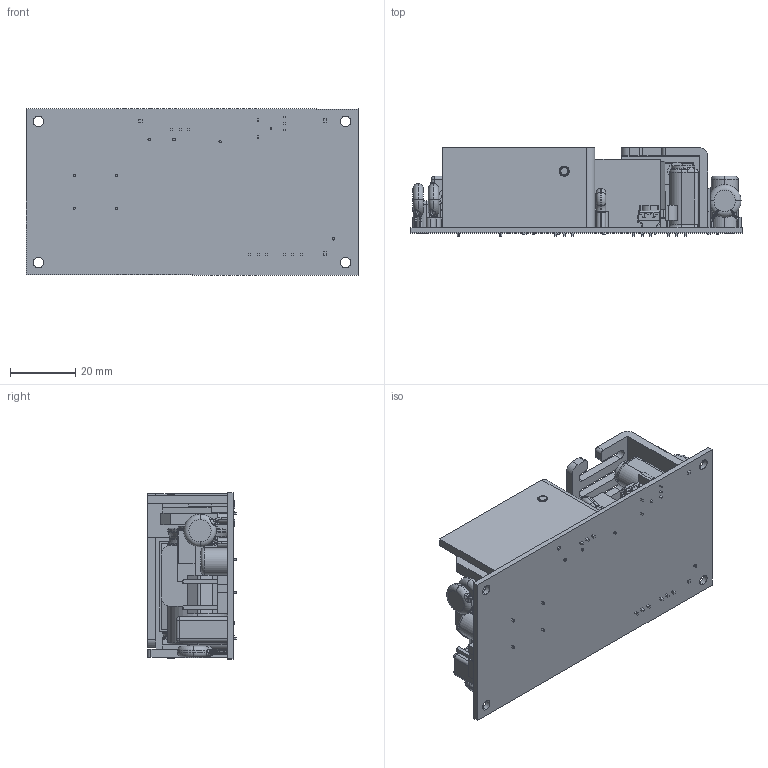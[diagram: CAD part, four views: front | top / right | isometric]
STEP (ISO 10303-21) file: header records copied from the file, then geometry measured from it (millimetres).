
FILE_DESCRIPTION (( 'STEP AP214' ), '1' );
FILE_NAME ('CFM40 60²Õ¦X¥ó.STEP', '2018-01-12T03:17:14', ( 'cincon' ), ( '' ), 'SwSTEP 2.0', 'SolidWorks 2008', '' );
FILE_SCHEMA (( 'AUTOMOTIVE_DESIGN' ));
Length unit declared in the file: millimetre
Products named in the file (7): 4 PIN插座971208; 18.3mm電容; CFM40 60變壓器A 971208; 3 PIN插座(2PIN)971208; 電晶體10mm(附螺絲); CFM40 60 3D MPDEL 971208; CFM40 60組合件
Assembly tree (8 placements, depth 2):
  CFM40 60組合件
    電晶體10mm(附螺絲)  x3
    CFM40 60變壓器A 971208
    18.3mm電容
    CFM40 60 3D MPDEL 971208
    4 PIN插座971208
    3 PIN插座(2PIN)971208
Bounding box: 101.6 x 27.1 x 50.8 mm (x, y, z)
Volume: 62609.7 mm3; surface area: 39027 mm2
Topology: 8 solids, 8 shells, 1727 faces, 4306 edges, 2650 vertices
Faces by surface type: plane 826, cylinder 553, torus 209, bspline 96, cone 36, sphere 7
Entity records: 57727 total; most frequent: CARTESIAN_POINT 14567, DIRECTION 8001, ORIENTED_EDGE 7814, EDGE_CURVE 3907, AXIS2_PLACEMENT_3D 2867, VERTEX_POINT 2404, VECTOR 2267, LINE 2267
